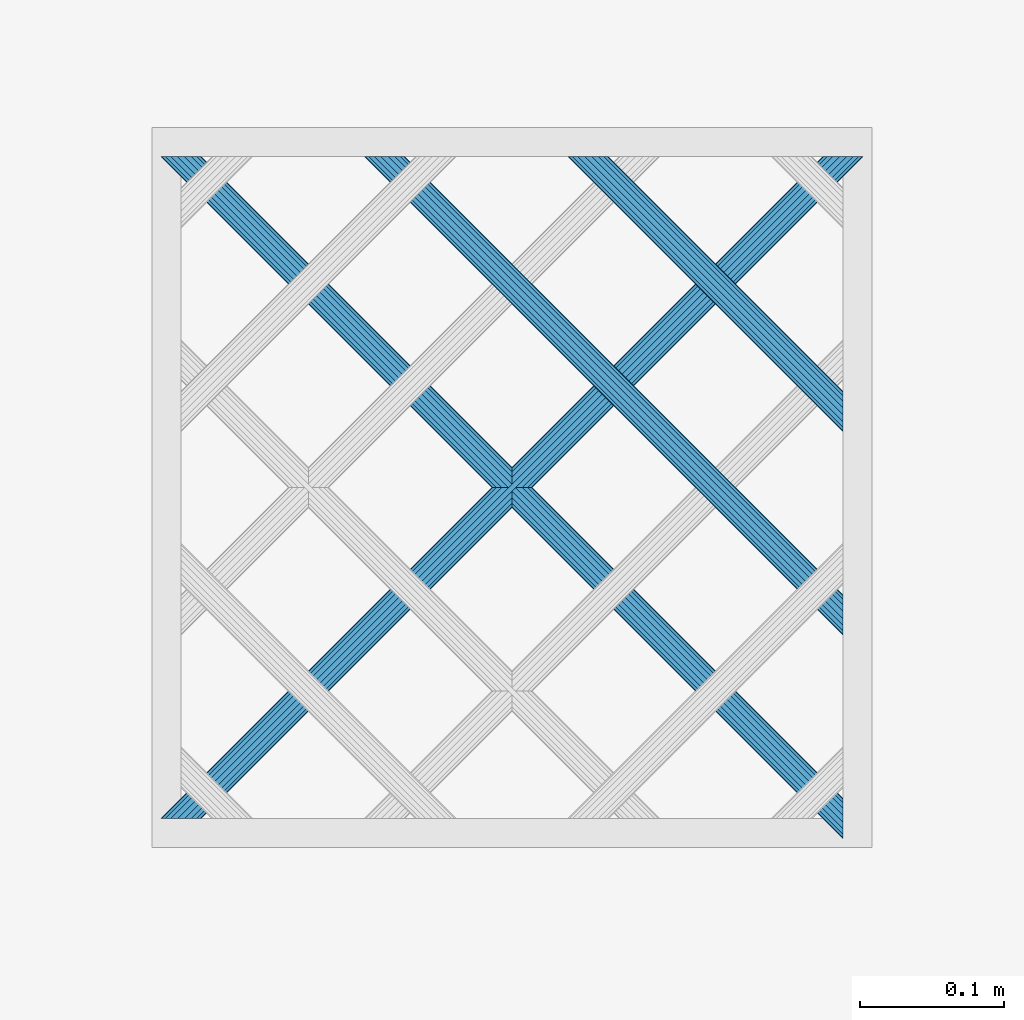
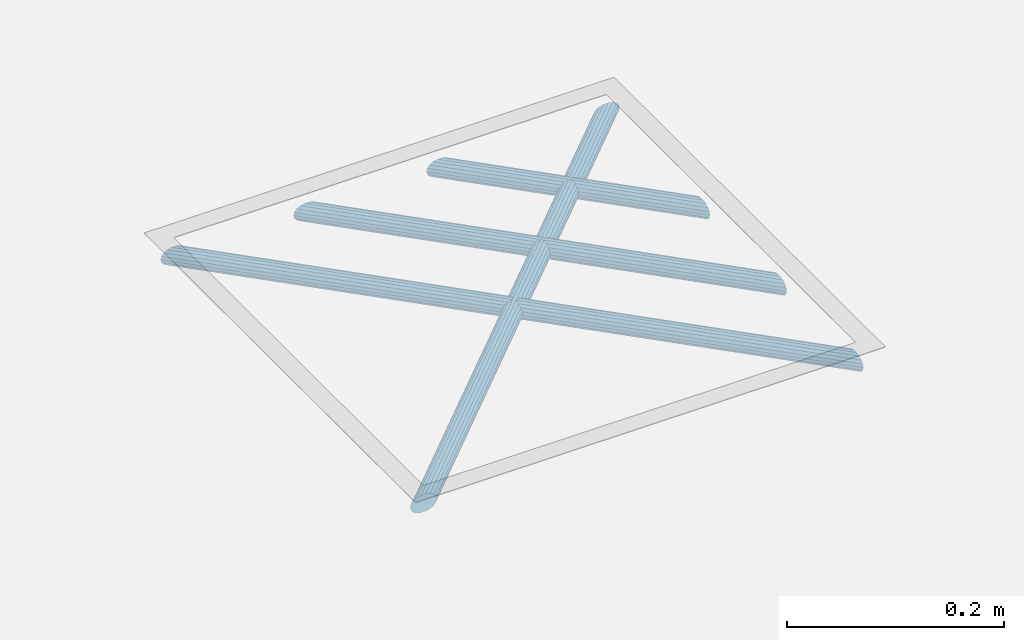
# One storey, part 81 of 133: 4 members, 1 element without a shape of its own.
"""IFC2X3 building model written with IfcOpenShell, lengths in centimetres."""

from ifc_helpers import new_model, entity, si_unit, converted_unit, direction, frame, origin, origin_with_axes, place, context, subcontext, project, spatial, faceted_brep, material, type_object, element, aggregate, save


model = new_model("IFC2X3")

# Units and contexts
model_context = context("Model", 3, precision=0.0001, world=origin(), true_north=direction((0.225632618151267, 0.974212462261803, 0.0)))
body_context = subcontext(model_context, "Body", "Model", "MODEL_VIEW")
ifc_project = project(units=[si_unit("LENGTHUNIT", "METRE", prefix="CENTI"), si_unit("AREAUNIT", "SQUARE_METRE", prefix="CENTI"), si_unit("VOLUMEUNIT", "CUBIC_METRE", prefix="CENTI"), converted_unit("PLANEANGLEUNIT", "DEGREE", entity("IfcRatioMeasure", 0.0174532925), si_unit("PLANEANGLEUNIT", "RADIAN"), dimensions=[0, 0, 0, 0, 0, 0, 0])], contexts=[model_context])

# Site, building, storey
site_placement = place(None, origin_with_axes())
site = spatial("IfcSite", under=ifc_project, at=site_placement, Name="Default Site", CompositionType="ELEMENT")
building_placement = place(site_placement, origin_with_axes())
building = spatial("IfcBuilding", under=site, at=building_placement, Name="Default Building", CompositionType="ELEMENT")
storey_placement = place(building_placement, frame((0.0, 0.0, -291.400371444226), z_axis=(0.0, 0.0, 1.0), x_axis=(1.0, 0.0, 0.0)))
storey = spatial("IfcBuildingStorey", under=building, at=storey_placement, Name="Rez-de-Jardin", CompositionType="ELEMENT", Elevation=-291.400371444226)

# Assembly, members
building_element_proxy_type = type_object("IfcBuildingElementProxyType", Name="Type Object", PredefinedType="NOTDEFINED")
assembly_placement = place(storey_placement, frame((1358.14143246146, 225.4756620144, -2.0), z_axis=(0.0, 1.0, -2.38697950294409e-15), x_axis=(1.0, 0.0, 0.0)))
assembly = element("IfcElementAssembly", 1, at=assembly_placement, inside=storey, type_object=building_element_proxy_type, Name="Panneau 134273", ObjectType="Precast panel", PredefinedType="USERDEFINED")
ifc_material = material(Name="Aluminium satiné")
member_1_placement = place(assembly_placement, frame((49.3289262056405, 0.342020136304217, 47.9999989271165), z_axis=(1.16937776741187e-15, -1.43218081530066e-15, 1.0), x_axis=(0.632457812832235, -0.774594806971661, -1.84894192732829e-15)))
member_1 = element("IfcMember", 2, at=member_1_placement, material=ifc_material, Name="4294966698", context=body_context, shape_type="Brep", body=[
    faceted_brep([(-1.0547118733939e-13, 9.43689570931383e-14, -1.11022302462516e-14), (-0.388290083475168, 8.88178419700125e-14, -1.18201560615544e-14), (-0.799166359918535, -0.15024692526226, -1.25798424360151e-14), (-1.18307325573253, -0.432621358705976, -1.3289663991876e-14), (-1.49370567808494, -0.813064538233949, -1.38640053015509e-14), (-1.69359615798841, -1.24568864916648, -1.42335911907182e-14), (-1.75863665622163, -1.67831484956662, -1.4353847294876e-14), (-1.68097899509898, -2.05875802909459, -1.4210262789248e-14), (-1.46999321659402, -2.34113520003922, -1.38201623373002e-14), (-1.15112495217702, -2.49138464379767, -1.32305934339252e-14), (-0.762836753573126, -2.49138695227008, -1.25126711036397e-14), (-0.351958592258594, -2.34113771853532, -1.17529812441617e-14), (0.0319483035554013, -2.0587632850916, -1.10431596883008e-14), (0.34258072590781, -1.67832010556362, -1.04688183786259e-14), (0.542471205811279, -1.2456959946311, -1.00992324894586e-14), (0.607509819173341, -0.813072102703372, -9.97897987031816e-15), (0.529854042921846, -0.432626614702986, -1.01225608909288e-14), (0.318868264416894, -0.15024944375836, -1.05126613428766e-14), (-28.7741916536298, -35.7816112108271, -45.99999897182), (-28.5632054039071, -36.0639878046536, -45.99999897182), (-28.48554868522, -36.4444321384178, -45.99999897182), (-28.5505881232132, -36.8770570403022, -45.99999897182), (-28.75047895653, -37.3096815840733, -45.99999897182), (-29.0611113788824, -37.6901247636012, -45.99999897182), (-29.4450185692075, -37.9724995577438, -45.99999897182), (-29.8558956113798, -38.122747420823, -45.99999897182), (-30.2441847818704, -38.1227463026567, -45.99999897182), (-30.5630525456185, -37.9724962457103, -45.99999897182), (-30.7740388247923, -37.6901196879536, -45.99999897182), (-30.8516955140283, -37.3096753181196, -45.99999897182), (-30.7866561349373, -36.8770504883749, -45.99999897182), (-30.5867653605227, -36.4444260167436, -45.99999897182), (-30.2761329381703, -36.0639828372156, -45.99999897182), (-29.892225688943, -35.7816079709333, -45.99999897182), (-29.4813485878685, -35.6313600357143, -45.99999897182), (-29.093059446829, -35.6313611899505, -45.99999897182), (0.318868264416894, -0.15024944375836, -1.11022302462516e-14), (0.529854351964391, -0.432626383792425, -3.74318504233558e-07), (-28.5632046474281, -36.0639872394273, -45.9999998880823), (-28.7741909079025, -35.7816106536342, -45.9999998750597), (0.529854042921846, -0.432626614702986, -1.11022302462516e-14), (0.607510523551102, -0.813071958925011, -5.56859200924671e-07), (-28.4855481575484, -36.4444320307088, -45.9999993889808), (-28.5632048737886, -36.0639876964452, -45.9999993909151), (0.607509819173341, -0.813072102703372, -1.11022302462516e-14), (0.542470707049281, -1.24569591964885, 2.57365055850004e-07), (-28.5505882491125, -36.8770570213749, -45.9999989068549), (-28.485548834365, -36.4444321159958, -45.9999988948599), (0.542471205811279, -1.2456959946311, -1.11022302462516e-14), (0.34258060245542, -1.6783200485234, 3.3895354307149e-08), (-28.7504787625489, -37.3096816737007, -45.9999990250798), (-28.5505879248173, -36.8770571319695, -45.999999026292), (0.34258072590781, -1.67832010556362, -1.11022302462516e-14), (0.0319483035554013, -2.0587632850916, -1.11022302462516e-14), (-29.0611113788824, -37.6901247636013, -45.99999897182), (-0.351958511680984, -2.34113782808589, 3.38953535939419e-08), (-29.445018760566, -37.9724992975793, -45.9999990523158), (-29.0611115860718, -37.6901244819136, -45.9999990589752), (-0.351958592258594, -2.34113771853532, -1.11022302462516e-14), (-0.762836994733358, -2.49138629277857, -3.58315037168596e-07), (-29.8558958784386, -38.1227466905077, -45.999999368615), (-29.4450188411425, -37.9724988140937, -45.99999937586), (-0.762836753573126, -2.49138695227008, -1.11022302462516e-14), (-1.15112495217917, -2.49138536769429, 5.6072790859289e-07), (-30.2441847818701, -38.1227461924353, -45.9999990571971), (-29.8558956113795, -38.1227473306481, -45.9999990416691), (-1.15112495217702, -2.49138464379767, -1.11022302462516e-14), (-1.46999305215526, -2.34113485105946, -3.74318506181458e-07), (-30.5630521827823, -37.9724954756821, -45.9999997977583), (-30.2441844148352, -38.1227455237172, -45.9999998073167), (-1.46999321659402, -2.34113520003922, -1.11022302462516e-14), (-1.68097930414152, -2.05875826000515, 3.74318483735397e-07), (-30.7740384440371, -37.6901194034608, -45.9999994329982), (-30.5630521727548, -37.9724959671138, -45.9999994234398), (-1.68097899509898, -2.05875802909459, -1.11022302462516e-14), (-1.75863594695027, -1.67831470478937, -5.60727932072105e-07), (-30.8516947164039, -37.3096751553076, -45.9999996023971), (-30.7740380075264, -37.6901195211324, -45.999999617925), (-1.75863665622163, -1.67831484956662, -1.11022302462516e-14), (-1.69359685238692, -1.24568854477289, 3.5831501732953e-07), (-30.7866560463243, -36.8770505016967, -45.999999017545), (-30.8516954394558, -37.3096753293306, -45.9999990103), (-1.69359615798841, -1.24568864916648, -1.11022302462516e-14), (-1.49370555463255, -0.813064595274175, -3.38953770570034e-08), (-30.5867649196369, -36.4444262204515, -45.9999990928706), (-30.7866557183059, -36.8770506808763, -45.9999990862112), (-1.49370567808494, -0.813064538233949, -1.11022302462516e-14), (-1.18307325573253, -0.432621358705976, -1.11022302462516e-14), (-0.799166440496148, -0.150246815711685, -3.38953768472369e-08), (-29.892225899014, -35.781607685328, -45.9999990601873), (-30.2761331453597, -36.063982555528, -45.9999990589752), (-0.799166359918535, -0.15024692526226, -1.11022302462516e-14), (-0.388290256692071, 4.73689620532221e-07, -2.57365078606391e-07), (-29.4813487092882, -35.6313597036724, -45.999999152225), (-29.8922258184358, -35.7816076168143, -45.99999916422), (-0.388290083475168, 8.88178419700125e-14, -1.11022302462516e-14), (-2.23509654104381e-12, -7.1890202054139e-07, 5.56859180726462e-07), (-29.0930594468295, -35.6313613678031, -45.9999988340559), (-29.481348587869, -35.6313602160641, -45.9999988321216), (0.318868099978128, -0.150249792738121, 3.74318481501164e-07), (-28.7741914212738, -35.78161071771, -45.9999995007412), (-29.0930592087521, -35.6313606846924, -45.9999995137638)], [[[0, 1, 2, 3, 4, 5, 6, 7, 8, 9, 10, 11, 12, 13, 14, 15, 16, 17]], [[18, 19, 20, 21, 22, 23, 24, 25, 26, 27, 28, 29, 30, 31, 32, 33, 34, 35]], [[36, 37, 38, 39]], [[40, 41, 42, 43]], [[44, 45, 46, 47]], [[48, 49, 50, 51]], [[52, 53, 54, 22]], [[53, 55, 56, 57]], [[58, 59, 60, 61]], [[62, 63, 64, 65]], [[66, 67, 68, 69]], [[70, 71, 72, 73]], [[74, 75, 76, 77]], [[78, 79, 80, 81]], [[82, 83, 84, 85]], [[86, 87, 32, 31]], [[87, 88, 89, 90]], [[91, 92, 93, 94]], [[95, 96, 97, 98]], [[0, 99, 100, 101]]]),
])
member_2_placement = place(assembly_placement, frame((47.9999989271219, 0.342020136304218, 28.9553463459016), z_axis=(0.999999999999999, 0.0, 0.0), x_axis=(0.0, -0.774598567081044, -0.632453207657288)))
member_2 = element("IfcMember", 3, at=member_2_placement, material=ifc_material, Name="4294966693", context=body_context, shape_type="Brep", body=[
    faceted_brep([(3.88578058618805e-14, -6.38378239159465e-14, 0.0), (-0.388288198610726, -6.10622663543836e-14, 0.0), (-0.799165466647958, -0.150251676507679, 0.0), (-1.18307068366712, -0.43262839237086, 0.0), (-1.49370084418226, -0.813073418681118, 0.0), (-1.69358875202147, -1.24569871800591, 0.0), (-1.75862479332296, -1.67832299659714, 0.0), (-1.68096675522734, -2.0587680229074, 0.0), (-1.46997929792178, -2.34114393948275, 0.0), (-1.15111014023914, -2.49139148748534, 0.0), (-0.762820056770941, -2.49138917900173, 0.0), (-0.351944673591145, -2.34113981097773, 0.0), (0.031960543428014, -2.05876309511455, 0.0), (0.342590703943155, -1.67831806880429, 0.0), (0.542478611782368, -1.2456927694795, 0.0), (0.607516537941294, -0.813066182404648, 0.0), (0.529856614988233, -0.432623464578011, 0.0), (0.318869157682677, -0.150247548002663, 0.0), (-11.7799233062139, -14.9682723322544, -19.129940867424), (-11.5149949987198, -15.1845840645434, -19.0446525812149), (-11.2820209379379, -15.3748054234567, -18.7990784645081), (-11.1091012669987, -15.5159928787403, -18.4228330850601), (-11.0170926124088, -15.5911171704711, -17.9613023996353), (-11.0170926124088, -15.5911171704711, -17.4701511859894), (-11.1091012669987, -15.5159928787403, -17.0086205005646), (-11.2820209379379, -15.3748054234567, -16.6323781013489), (-11.5149949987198, -15.1845840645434, -16.3868010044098), (-11.7799233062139, -14.9682723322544, -16.3015127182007), (-12.044851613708, -14.7519605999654, -16.3868010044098), (-12.2778256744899, -14.5617392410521, -16.6323781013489), (-12.450745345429, -14.4205517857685, -17.0086205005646), (-12.542754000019, -14.3454274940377, -17.4701511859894), (-12.542754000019, -14.3454274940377, -17.9613023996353), (-12.450745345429, -14.4205517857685, -18.4228330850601), (-12.2778256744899, -14.5617392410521, -18.7990784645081), (-12.044851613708, -14.7519605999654, -19.0446525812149), (0.529856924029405, -0.432623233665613, -3.74318492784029e-07), (-11.5149946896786, -15.184583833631, -19.0446529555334), (0.607515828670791, -0.813066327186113, 5.60727919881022e-07), (-11.2820216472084, -15.3748055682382, -18.7990779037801), (0.542479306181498, -1.24569287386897, -3.58315027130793e-07), (-11.1091005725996, -15.5159929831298, -18.4228334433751), (0.342590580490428, -1.6783180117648, 3.38953650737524e-08), (-11.0170927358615, -15.5911171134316, -17.96130236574), (0.0319605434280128, -2.05876309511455, 0.0), (-11.0170926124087, -15.5911171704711, -17.4701511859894), (-11.0170926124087, -15.5911171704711, -17.9613023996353), (-0.351944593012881, -2.34113992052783, 3.38953657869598e-08), (-11.1091011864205, -15.5159929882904, -17.0086204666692), (-0.762819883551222, -2.49138965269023, 2.57365066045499e-07), (-11.2820207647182, -15.3748058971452, -16.6323778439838), (-1.15111014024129, -2.49139076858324, -5.56859187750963e-07), (-11.5149949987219, -15.1845833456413, -16.386801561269), (-1.46997913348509, -2.34114359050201, -3.74318493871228e-07), (-11.7799231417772, -14.9682719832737, -16.3015130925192), (-1.68096706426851, -2.0587682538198, 3.74318492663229e-07), (-12.0448519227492, -14.7519608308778, -16.3868006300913), (-1.75862549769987, -1.67832314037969, 5.5685918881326e-07), (-12.2778263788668, -14.5617393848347, -16.6323775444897), (-1.69358825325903, -1.24569879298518, -2.57365066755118e-07), (-12.4507448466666, -14.4205518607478, -17.0086207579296), (-1.49370072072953, -0.813073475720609, -3.38953651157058e-08), (-12.5427538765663, -14.3454275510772, -17.4701512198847), (-12.4507453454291, -14.4205517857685, -17.0086205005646), (-0.799165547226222, -0.150251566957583, -3.38953658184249e-08), (-12.4507454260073, -14.4205516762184, -18.4228331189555), (-0.388287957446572, -6.59490141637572e-07, 3.58315028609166e-07), (-12.2778254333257, -14.5617399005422, -18.799078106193), (-2.12047159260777e-12, 7.238965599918e-07, -5.60727921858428e-07), (-12.0448516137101, -14.7519598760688, -19.0446531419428), (0.318868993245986, -0.150247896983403, 3.74318494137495e-07), (-11.7799234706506, -14.9682726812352, -19.1299404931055)], [[[0, 1, 2, 3, 4, 5, 6, 7, 8, 9, 10, 11, 12, 13, 14, 15, 16, 17]], [[18, 19, 20, 21, 22, 23, 24, 25, 26, 27, 28, 29, 30, 31, 32, 33, 34, 35]], [[17, 36, 37, 18]], [[16, 38, 39, 19]], [[15, 40, 41, 20]], [[14, 42, 43, 21]], [[13, 44, 45, 46]], [[12, 47, 48, 23]], [[11, 49, 50, 24]], [[10, 51, 52, 25]], [[9, 53, 54, 26]], [[8, 55, 56, 27]], [[7, 57, 58, 28]], [[6, 59, 60, 29]], [[5, 61, 62, 63]], [[4, 3, 32, 31]], [[3, 64, 65, 32]], [[2, 66, 67, 33]], [[1, 68, 69, 34]], [[0, 70, 71, 35]]]),
])
member_3_placement = place(assembly_placement, frame((47.9999989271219, 0.342020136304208, 14.8132100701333), z_axis=(0.999999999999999, 0.0, 0.0), x_axis=(0.0, -0.774596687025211, -0.632455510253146)))
member_3 = element("IfcMember", 4, at=member_3_placement, material=ifc_material, Name="4294966692", context=body_context, shape_type="Brep", body=[
    faceted_brep([(2.22044604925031e-14, -6.66133814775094e-14, -1.55431223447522e-13), (-0.388289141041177, -6.66133814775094e-14, -1.55431223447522e-13), (-0.799165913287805, -0.150249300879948, -1.55431223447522e-13), (-1.18307196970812, -0.432624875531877, -1.55431223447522e-13), (-1.49370326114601, -0.813068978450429, -1.55431223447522e-13), (-1.69359245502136, -1.24569368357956, -1.55431223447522e-13), (-1.75863072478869, -1.67831892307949, -1.55431223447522e-13), (-1.68097287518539, -2.05876302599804, -1.55431223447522e-13), (-1.46998531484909, -2.34113841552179, -1.55431223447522e-13), (-1.1511175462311, -2.49138806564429, -1.55431223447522e-13), (-0.762828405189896, -2.49138806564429, -1.55431223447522e-13), (-0.351951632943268, -2.34113876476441, -1.55431223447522e-13), (0.0319544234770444, -2.05876319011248, -1.55431223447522e-13), (0.342585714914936, -1.67831908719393, -1.55431223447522e-13), (0.542474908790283, -1.2456943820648, -1.55431223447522e-13), (0.607513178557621, -0.813069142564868, -1.55431223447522e-13), (0.529855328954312, -0.432625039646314, -1.55431223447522e-13), (0.318868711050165, -0.150248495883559, -1.55431223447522e-13), (-20.7242398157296, -25.9226892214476, -33.2720771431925), (-20.4593121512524, -26.1390017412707, -33.1867888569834), (-20.2263386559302, -26.32922379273, -32.9412132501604), (-20.0534194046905, -26.47041176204, -32.5649693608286), (-19.961410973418, -26.5455363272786, -32.1034386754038), (-19.961410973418, -26.5455363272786, -31.6122874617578), (-20.0534194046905, -26.47041176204, -31.150756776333), (-20.2263386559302, -26.32922379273, -30.7745128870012), (-20.4593121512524, -26.1390017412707, -30.5289372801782), (-20.7242398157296, -25.9226892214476, -30.4436504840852), (-20.9891674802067, -25.7063767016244, -30.5289372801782), (-21.222140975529, -25.5161546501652, -30.7745128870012), (-21.3950602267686, -25.3749666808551, -31.150756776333), (-21.4870686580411, -25.2998421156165, -31.6122874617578), (-21.4870686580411, -25.2998421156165, -32.1034386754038), (-21.3950602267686, -25.3749666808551, -32.5649693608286), (-21.222140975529, -25.5161546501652, -32.9412132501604), (-20.9891674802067, -25.7063767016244, -33.1867888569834), (0.529855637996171, -0.432624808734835, -3.74318648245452e-07), (-20.4593118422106, -26.1390015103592, -33.1867892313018), (0.60751317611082, -0.813069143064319, 1.93421064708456e-09), (-20.226338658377, -26.3292237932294, -32.941213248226), (0.542475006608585, -1.24569439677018, -5.04751370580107e-08), (-20.0534193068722, -26.4704117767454, -32.5649694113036), (0.342585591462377, -1.67831903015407, 3.38952101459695e-08), (-19.9614110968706, -26.5455362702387, -32.1034386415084), (0.0319544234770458, -2.05876319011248, -1.55431223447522e-13), (-0.35195155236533, -2.34113887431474, 3.38952101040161e-08), (-20.0534193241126, -26.4704118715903, -31.1507567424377), (-0.762828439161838, -2.4913879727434, -5.04751377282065e-08), (-20.2263386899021, -26.3292236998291, -30.7745129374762), (-1.1511175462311, -2.49138806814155, 1.93421170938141e-09), (-20.4593121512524, -26.1390017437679, -30.5289372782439), (-1.4699854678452, -2.3411387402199, 3.48273160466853e-07), (-20.7242399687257, -25.9226895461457, -30.4436501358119), (-1.68097258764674, -2.05876281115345, -3.482734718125e-07), (-20.9891671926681, -25.7063764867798, -30.5289376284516), (-1.75863072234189, -1.67831892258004, -1.93452129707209e-09), (-21.2221409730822, -25.5161546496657, -30.7745128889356), (-1.69359255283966, -1.24569366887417, 5.04748263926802e-08), (-21.3950603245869, -25.3749666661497, -31.150756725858), (-1.49370313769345, -0.813069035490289, -3.389552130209e-08), (-21.4870685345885, -25.2998421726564, -31.6122874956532), (-0.799165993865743, -0.150249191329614, -3.3895520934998e-08), (-21.3950603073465, -25.3749665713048, -32.5649693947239), (-0.388289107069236, -9.2900958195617e-08, 5.0474825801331e-08), (-21.222140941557, -25.5161547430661, -32.9412131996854), (2.21787630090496e-14, 2.49718858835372e-09, -1.9345210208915e-09), (-20.9891674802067, -25.7063766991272, -33.1867888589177), (0.318868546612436, -0.150248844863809, 3.74318337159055e-07), (-20.7242399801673, -25.9226895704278, -33.272076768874), (-20.9891674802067, -25.7063767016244, -33.1867888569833)], [[[0, 1, 2, 3, 4, 5, 6, 7, 8, 9, 10, 11, 12, 13, 14, 15, 16, 17]], [[18, 19, 20, 21, 22, 23, 24, 25, 26, 27, 28, 29, 30, 31, 32, 33, 34, 35]], [[17, 36, 37, 18]], [[16, 38, 39, 19]], [[15, 40, 41, 20]], [[14, 42, 43, 21]], [[13, 44, 23, 22]], [[12, 45, 46, 23]], [[11, 47, 48, 24]], [[10, 49, 50, 25]], [[9, 51, 52, 26]], [[8, 53, 54, 27]], [[7, 55, 56, 28]], [[6, 57, 58, 29]], [[5, 59, 60, 30]], [[4, 3, 32, 31]], [[3, 61, 62, 32]], [[2, 63, 64, 33]], [[1, 65, 66, 34]], [[0, 67, 68, 69]]]),
])
member_4_placement = place(assembly_placement, frame((47.9999989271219, 0.342020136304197, 0.671073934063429), z_axis=(0.999999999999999, 0.0, 0.0), x_axis=(0.0, -0.774596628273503, -0.632455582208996)))
member_4 = element("IfcMember", 5, at=member_4_placement, material=ifc_material, Name="4294966691", context=body_context, shape_type="Brep", body=[
    faceted_brep([(3.36536354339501e-14, 1.30104260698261e-15, -1.88737914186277e-13), (-0.388289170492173, 2.25514051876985e-15, -1.88737914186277e-13), (-0.799165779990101, -0.150249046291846, -1.88737914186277e-13), (-1.18307215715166, -0.432624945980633, -1.88737914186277e-13), (-1.49370348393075, -0.813069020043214, -1.88737914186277e-13), (-1.6935930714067, -1.24569413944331, -1.88737914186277e-13), (-1.75863126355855, -1.67831922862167, -1.88737914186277e-13), (-1.68097344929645, -2.05876333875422, -1.88737914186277e-13), (-1.46998638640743, -2.34113932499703, -1.88737914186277e-13), (-1.1511181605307, -2.49138842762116, -1.88737914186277e-13), (-0.762829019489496, -2.49138846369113, -1.88737914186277e-13), (-0.351952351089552, -2.34113934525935, -1.88737914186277e-13), (0.0319540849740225, -2.05876337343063, -1.88737914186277e-13), (0.342585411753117, -1.67831929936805, -1.88737914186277e-13), (0.542474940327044, -1.24569425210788, -1.88737914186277e-13), (0.607513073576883, -0.813069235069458, -1.88737914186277e-13), (0.529855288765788, -0.432625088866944, -1.88737914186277e-13), (0.318868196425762, -0.1502491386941, -1.88737914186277e-13), (-29.6685151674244, -36.8771382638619, -47.4142124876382), (-29.4035875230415, -37.0934508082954, -47.3289249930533), (-29.1706140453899, -37.2836728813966, -47.0833493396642), (-28.9976948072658, -37.4248608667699, -46.7071057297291), (-28.905686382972, -37.4999854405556, -46.245574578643), (-28.905686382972, -37.4999854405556, -45.7544233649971), (-28.9976948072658, -37.4248608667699, -45.2928921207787), (-29.1706140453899, -37.2836728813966, -44.9166484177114), (-29.4035875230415, -37.0934508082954, -44.6710728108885), (-29.6685151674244, -36.8771382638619, -44.5857852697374), (-29.9334428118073, -36.6608257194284, -44.6710728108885), (-30.1664162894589, -36.4706036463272, -44.9166484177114), (-30.339335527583, -36.3294156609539, -45.2928921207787), (-30.4313439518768, -36.2542910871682, -45.7544233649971), (-30.4313439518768, -36.2542910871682, -46.245574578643), (-30.339335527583, -36.3294156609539, -46.7071057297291), (-30.1664162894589, -36.4706036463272, -47.0833493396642), (-29.9334428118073, -36.6608257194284, -47.3289249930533), (0.529855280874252, -0.432625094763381, 9.55821682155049e-09), (-29.403587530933, -37.0934508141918, -47.3289249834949), (0.607513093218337, -0.813069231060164, -1.55281212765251e-08), (-29.1706140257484, -37.2836728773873, -47.0833493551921), (0.542474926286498, -1.24569424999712, 7.24483894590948e-09), (-28.9976948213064, -37.4248608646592, -46.7071057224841), (0.342585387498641, -1.67831928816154, 6.65916601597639e-09), (-28.9056864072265, -37.4999854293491, -46.2455745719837), (0.0319540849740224, -2.05876337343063, -1.88737914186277e-13), (-0.351952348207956, -2.34113934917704, 1.21196384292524e-09), (-28.9976948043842, -37.4248608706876, -45.2928921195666), (-0.762829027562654, -2.49138844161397, -1.1995164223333e-08), (-29.170614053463, -37.2836728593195, -44.9166484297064), (-1.1511181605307, -2.49138843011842, 1.9341775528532e-09), (-29.4035875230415, -37.0934508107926, -44.6710728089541), (-1.46998638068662, -2.34113931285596, -1.30227771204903e-08), (-29.6685151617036, -36.8771382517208, -44.58578528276), (-1.68097346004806, -2.05876334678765, 1.3022399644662e-08), (-29.9334428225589, -36.6608257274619, -44.6710727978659), (-1.75863126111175, -1.67831922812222, -1.9345548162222e-09), (-30.1664162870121, -36.4706036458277, -44.9166484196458), (-1.69359309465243, -1.24569413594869, 1.1994786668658e-08), (-30.3393355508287, -36.3294156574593, -45.2928921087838), (-1.49370347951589, -0.813069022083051, -1.21234140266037e-09), (-30.4313439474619, -36.254291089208, -45.7544233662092), (-0.799165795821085, -0.150249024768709, -6.65954353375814e-09), (-30.339335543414, -36.3294156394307, -46.7071057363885), (-0.388289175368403, 1.33347184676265e-08, -7.24521638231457e-09), (-30.1664162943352, -36.4706036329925, -47.0833493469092), (3.19977101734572e-14, -2.00464731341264e-08, 1.55277438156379e-08), (-29.9334428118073, -36.6608257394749, -47.3289249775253), (0.31886820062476, -0.150249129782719, -9.55859437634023e-09), (-29.6685151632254, -36.8771382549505, -47.4142124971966)], [[[0, 1, 2, 3, 4, 5, 6, 7, 8, 9, 10, 11, 12, 13, 14, 15, 16, 17]], [[18, 19, 20, 21, 22, 23, 24, 25, 26, 27, 28, 29, 30, 31, 32, 33, 34, 35]], [[17, 36, 37, 18]], [[16, 38, 39, 19]], [[15, 40, 41, 20]], [[14, 42, 43, 21]], [[13, 44, 23, 22]], [[12, 45, 46, 23]], [[11, 47, 48, 24]], [[10, 49, 50, 25]], [[9, 51, 52, 26]], [[8, 53, 54, 27]], [[7, 55, 56, 28]], [[6, 57, 58, 29]], [[5, 59, 60, 30]], [[4, 3, 32, 31]], [[3, 61, 62, 32]], [[2, 63, 64, 33]], [[1, 65, 66, 34]], [[0, 67, 68, 35]]]),
])
aggregate(assembly, [member_1, member_2, member_3, member_4])

save(model, "model.ifc")
